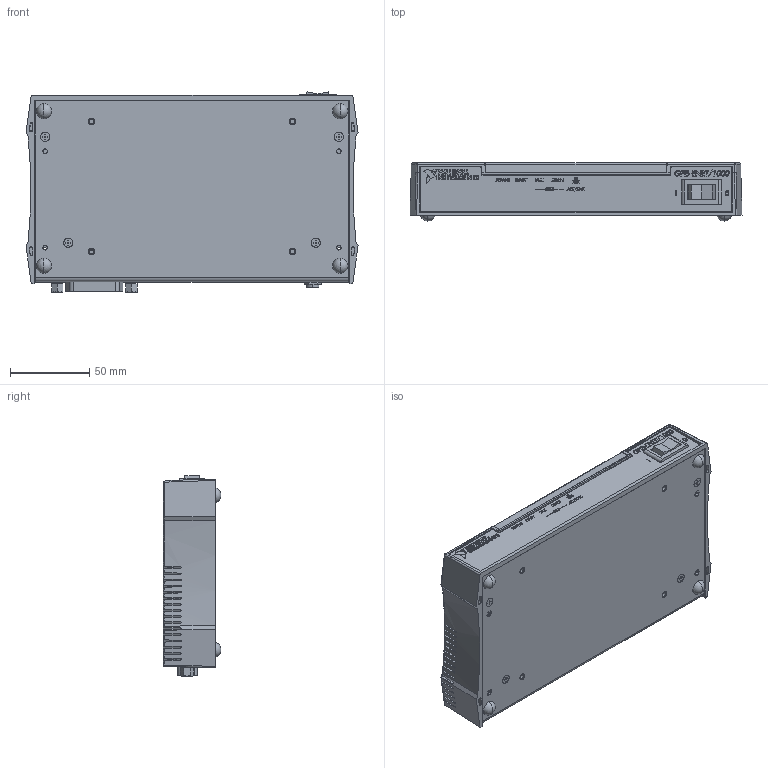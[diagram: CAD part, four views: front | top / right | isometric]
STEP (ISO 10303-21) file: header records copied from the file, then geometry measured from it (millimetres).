
FILE_DESCRIPTION((''),'2;1');
FILE_NAME('CU_ASSY_ENET-1000','2010-12-28T',('jpfaff'),(''),'PRO/ENGINEER BY PARAMETRIC TECHNOLOGY CORPORATION, 2006510','PRO/ENGINEER BY PARAMETRIC TECHNOLOGY CORPORATION, 2006510','');
FILE_SCHEMA(('CONFIG_CONTROL_DESIGN'));
Products named in the file (1): CU_ASSY_ENET-1000
Bounding box: 209.56 x 36.58 x 126.54 mm (x, y, z)
Volume: 159311.2 mm3; surface area: 161366.3 mm2
Topology: 5 solids, 6 shells, 2541 faces, 7096 edges, 4678 vertices
Faces by surface type: plane 1829, cylinder 379, extrusion 138, cone 128, torus 37, bspline 18, sphere 12
Entity records: 90006 total; most frequent: CARTESIAN_POINT 24862, ORIENTED_EDGE 14148, DIRECTION 12293, EDGE_CURVE 7076, VECTOR 5617, LINE 5479, VERTEX_POINT 4678, AXIS2_PLACEMENT_3D 3338
